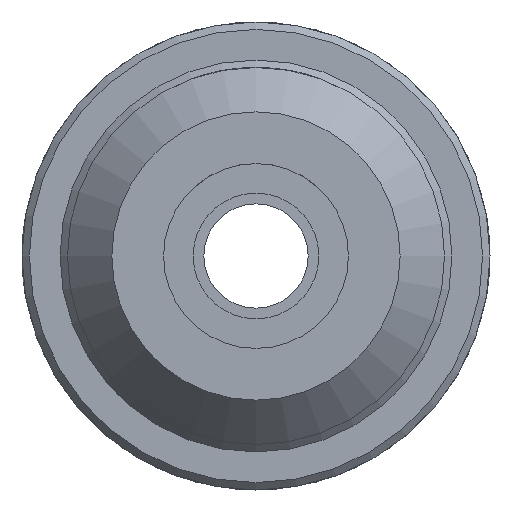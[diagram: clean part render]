
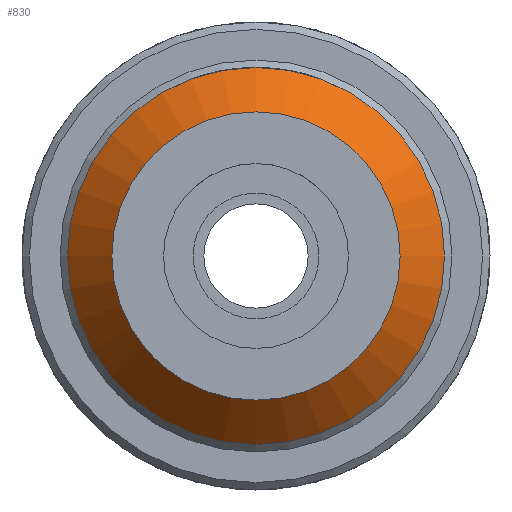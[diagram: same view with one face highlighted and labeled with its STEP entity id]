
A CAD part, front view. The second image highlights one B-rep face of the part: STEP entity #830.
In plain terms, the highlighted conical face has half-angle 42.274 degrees and reference radius 22.5 mm.
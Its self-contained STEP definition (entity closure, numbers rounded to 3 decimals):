
#100=LINE('',#2006,#137);
#137=VECTOR('',#1121,22.5);
#152=CONICAL_SURFACE('',#925,22.5,0.738);
#212=FACE_OUTER_BOUND('',#261,.T.);
#261=EDGE_LOOP('',(#736,#737,#738,#739,#740,#741));
#289=CIRCLE('',#875,25.5);
#290=CIRCLE('',#876,25.5);
#314=CIRCLE('',#926,19.5);
#315=CIRCLE('',#927,19.5);
#344=VERTEX_POINT('',#1374);
#345=VERTEX_POINT('',#1375);
#403=VERTEX_POINT('',#2002);
#404=VERTEX_POINT('',#2003);
#436=EDGE_CURVE('',#344,#345,#289,.T.);
#437=EDGE_CURVE('',#345,#344,#290,.T.);
#522=EDGE_CURVE('',#403,#404,#314,.T.);
#523=EDGE_CURVE('',#404,#403,#315,.T.);
#524=EDGE_CURVE('',#404,#345,#100,.T.);
#736=ORIENTED_EDGE('',*,*,#522,.F.);
#737=ORIENTED_EDGE('',*,*,#523,.F.);
#738=ORIENTED_EDGE('',*,*,#524,.T.);
#739=ORIENTED_EDGE('',*,*,#437,.T.);
#740=ORIENTED_EDGE('',*,*,#436,.T.);
#741=ORIENTED_EDGE('',*,*,#524,.F.);
#830=ADVANCED_FACE('',(#212),#152,.T.);
#875=AXIS2_PLACEMENT_3D('',#1376,#986,#987);
#876=AXIS2_PLACEMENT_3D('',#1377,#988,#989);
#925=AXIS2_PLACEMENT_3D('',#2001,#1115,#1116);
#926=AXIS2_PLACEMENT_3D('',#2004,#1117,#1118);
#927=AXIS2_PLACEMENT_3D('',#2005,#1119,#1120);
#986=DIRECTION('center_axis',(0.,-1.,0.));
#987=DIRECTION('ref_axis',(1.,0.,0.));
#988=DIRECTION('center_axis',(0.,-1.,0.));
#989=DIRECTION('ref_axis',(1.,0.,0.));
#1115=DIRECTION('center_axis',(0.,1.,0.));
#1116=DIRECTION('ref_axis',(1.,0.,0.));
#1117=DIRECTION('center_axis',(0.,-1.,0.));
#1118=DIRECTION('ref_axis',(1.,0.,0.));
#1119=DIRECTION('center_axis',(0.,-1.,0.));
#1120=DIRECTION('ref_axis',(1.,0.,0.));
#1121=DIRECTION('',(-0.673,0.74,0.));
#1374=CARTESIAN_POINT('',(25.5,6.6,0.));
#1375=CARTESIAN_POINT('',(-25.5,6.6,0.));
#1376=CARTESIAN_POINT('Origin',(0.,6.6,0.));
#1377=CARTESIAN_POINT('Origin',(0.,6.6,0.));
#2001=CARTESIAN_POINT('Origin',(0.,3.3,0.));
#2002=CARTESIAN_POINT('',(19.5,0.,0.));
#2003=CARTESIAN_POINT('',(-19.5,0.,0.));
#2004=CARTESIAN_POINT('Origin',(0.,0.,0.));
#2005=CARTESIAN_POINT('Origin',(0.,0.,0.));
#2006=CARTESIAN_POINT('',(-22.5,3.3,0.));
